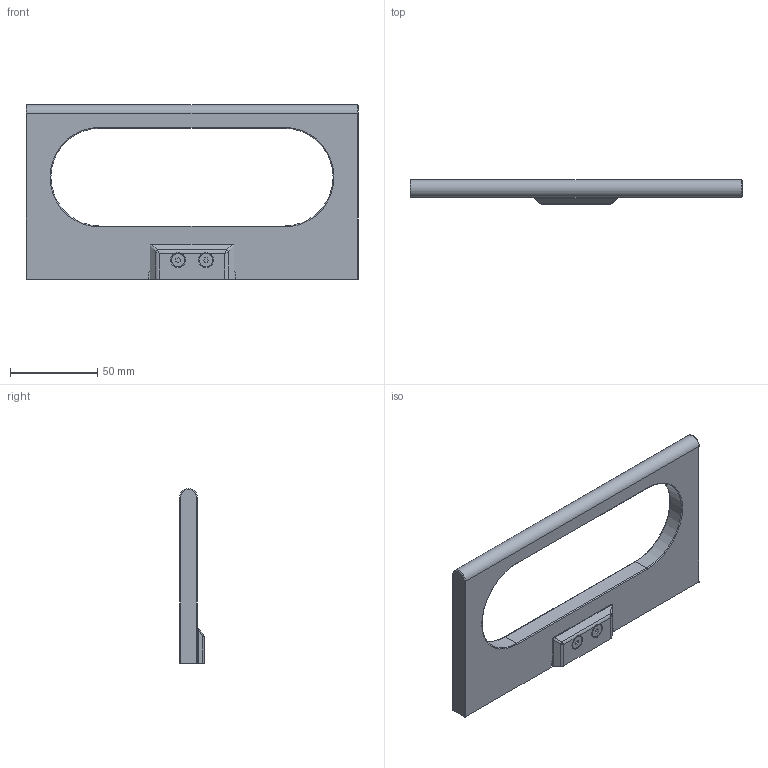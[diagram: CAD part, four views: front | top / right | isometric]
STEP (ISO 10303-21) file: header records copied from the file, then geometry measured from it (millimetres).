
FILE_DESCRIPTION (( 'STEP AP214' ), '1' );
FILE_NAME ('38038D-00-00.STEP', '2019-10-29T03:19:13', ( '' ), ( '' ), 'SwSTEP 2.0', 'SolidWorks 2011', '' );
FILE_SCHEMA (( 'AUTOMOTIVE_DESIGN' ));
Length unit declared in the file: millimetre
Products named in the file (1): 38038D-00-00
Bounding box: 190 x 14.02 x 100 mm (x, y, z)
Surface area: 32269.8 mm2 (no closed solid volume)
Topology: 0 solids, 8 shells, 114 faces, 334 edges, 226 vertices
Faces by surface type: plane 50, cylinder 39, cone 12, torus 7, bspline 6
Entity records: 5208 total; most frequent: CARTESIAN_POINT 997, DIRECTION 601, ORIENTED_EDGE 591, EDGE_CURVE 332, VERTEX_POINT 226, AXIS2_PLACEMENT_3D 206, LINE 189, VECTOR 189
